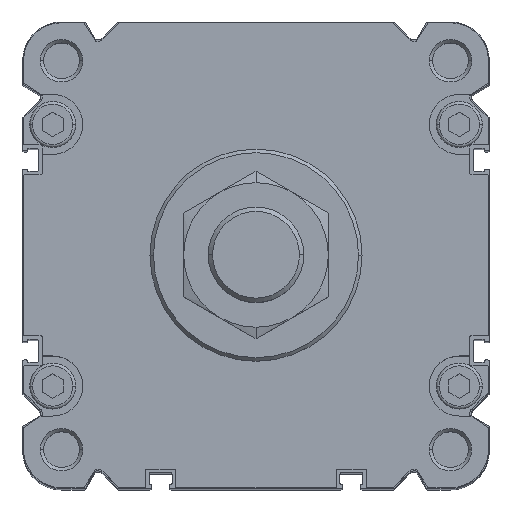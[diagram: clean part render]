
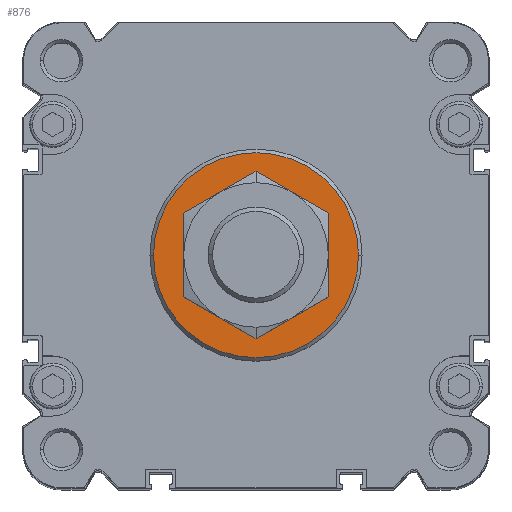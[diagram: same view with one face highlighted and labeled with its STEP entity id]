
A CAD part, top view. The second image highlights one B-rep face of the part: STEP entity #876.
In plain terms, the highlighted planar face has unit normal (0, 0, 1).
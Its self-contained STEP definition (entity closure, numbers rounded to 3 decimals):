
#150 = DIRECTION ( 'NONE',  ( 0., 0., -1. ) ) ;
#447 = DIRECTION ( 'NONE',  ( 0., 0., -1. ) ) ;
#876 = ADVANCED_FACE ( 'NONE', ( #18418, #18535 ), #11354, .T. ) ;
#1283 = ORIENTED_EDGE ( 'NONE', *, *, #11453, .F. ) ;
#1769 = CARTESIAN_POINT ( 'NONE',  ( 0., 0., 4. ) ) ;
#2131 = DIRECTION ( 'NONE',  ( 0., 0., -1. ) ) ;
#2234 = EDGE_LOOP ( 'NONE', ( #16241, #3402 ) ) ;
#2538 = DIRECTION ( 'NONE',  ( -1., 0., 0. ) ) ;
#2835 = ORIENTED_EDGE ( 'NONE', *, *, #5581, .F. ) ;
#3402 = ORIENTED_EDGE ( 'NONE', *, *, #13119, .T. ) ;
#3975 = DIRECTION ( 'NONE',  ( 1., 0., 0. ) ) ;
#4752 = CARTESIAN_POINT ( 'NONE',  ( 29., 0., 4. ) ) ;
#5562 = AXIS2_PLACEMENT_3D ( 'NONE', #6036, #13100, #5585 ) ;
#5581 = EDGE_CURVE ( 'NONE', #13308, #14125, #9382, .T. ) ;
#5585 = DIRECTION ( 'NONE',  ( 1., 0., 0. ) ) ;
#5975 = AXIS2_PLACEMENT_3D ( 'NONE', #14428, #2131, #18019 ) ;
#6036 = CARTESIAN_POINT ( 'NONE',  ( 0., 0., 4. ) ) ;
#8613 = VERTEX_POINT ( 'NONE', #21484 ) ;
#9382 = CIRCLE ( 'NONE', #15675, 29. ) ;
#9835 = DIRECTION ( 'NONE',  ( 0., 0., 1. ) ) ;
#10317 = AXIS2_PLACEMENT_3D ( 'NONE', #14368, #447, #19825 ) ;
#10662 = VERTEX_POINT ( 'NONE', #10865 ) ;
#10865 = CARTESIAN_POINT ( 'NONE',  ( -16., 0., 4. ) ) ;
#11354 = PLANE ( 'NONE',  #14243 ) ;
#11453 = EDGE_CURVE ( 'NONE', #14125, #13308, #12220, .T. ) ;
#12220 = CIRCLE ( 'NONE', #5562, 29. ) ;
#13095 = CARTESIAN_POINT ( 'NONE',  ( 0., -29., 4. ) ) ;
#13100 = DIRECTION ( 'NONE',  ( 0., 0., -1. ) ) ;
#13119 = EDGE_CURVE ( 'NONE', #10662, #8613, #18813, .T. ) ;
#13308 = VERTEX_POINT ( 'NONE', #15275 ) ;
#14125 = VERTEX_POINT ( 'NONE', #4752 ) ;
#14243 = AXIS2_PLACEMENT_3D ( 'NONE', #13095, #9835, #2538 ) ;
#14368 = CARTESIAN_POINT ( 'NONE',  ( 0., 0., 4. ) ) ;
#14428 = CARTESIAN_POINT ( 'NONE',  ( 0., 0., 4. ) ) ;
#15275 = CARTESIAN_POINT ( 'NONE',  ( -29., 0., 4. ) ) ;
#15675 = AXIS2_PLACEMENT_3D ( 'NONE', #1769, #150, #3975 ) ;
#16241 = ORIENTED_EDGE ( 'NONE', *, *, #21525, .T. ) ;
#18019 = DIRECTION ( 'NONE',  ( 1., 0., 0. ) ) ;
#18418 = FACE_OUTER_BOUND ( 'NONE', #19397, .T. ) ;
#18535 = FACE_BOUND ( 'NONE', #2234, .T. ) ;
#18813 = CIRCLE ( 'NONE', #10317, 16. ) ;
#19315 = CIRCLE ( 'NONE', #5975, 16. ) ;
#19397 = EDGE_LOOP ( 'NONE', ( #1283, #2835 ) ) ;
#19825 = DIRECTION ( 'NONE',  ( 1., 0., 0. ) ) ;
#21484 = CARTESIAN_POINT ( 'NONE',  ( 16., 0., 4. ) ) ;
#21525 = EDGE_CURVE ( 'NONE', #8613, #10662, #19315, .T. ) ;
